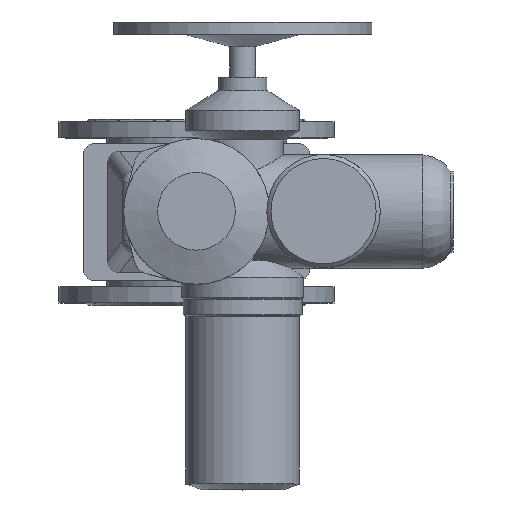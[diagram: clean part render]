
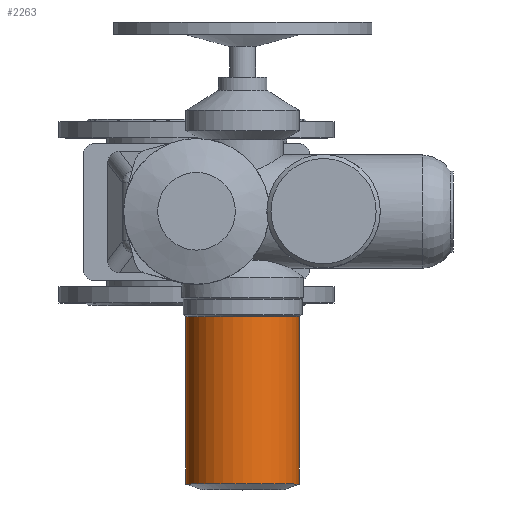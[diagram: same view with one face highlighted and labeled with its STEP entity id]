
A CAD part, top view. The second image highlights one B-rep face of the part: STEP entity #2263.
In plain terms, the highlighted cylindrical face has radius 70 mm (diameter 140 mm), a full revolution.
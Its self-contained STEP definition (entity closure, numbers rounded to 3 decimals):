
#2263=ADVANCED_FACE('',(#4683,#4685),#4687,.T.);
#4683=FACE_OUTER_BOUND('',#4684,.T.);
#4684=EDGE_LOOP('',(#5993));
#4685=FACE_OUTER_BOUND('',#4686,.T.);
#4686=EDGE_LOOP('',(#5994));
#4687=CYLINDRICAL_SURFACE('',#4688,70.);
#4688=AXIS2_PLACEMENT_3D('',#4689,#4690,#4691);
#4689=CARTESIAN_POINT('',(57.,-336.721,572.));
#4690=DIRECTION('',(0.,1.,0.));
#4691=DIRECTION('',(0.,0.,1.));
#5993=ORIENTED_EDGE('',*,*,#6640,.F.);
#5994=ORIENTED_EDGE('',*,*,#6641,.T.);
#6640=EDGE_CURVE('',#7722,#7722,#7723,.T.);
#6641=EDGE_CURVE('',#7724,#7724,#7725,.T.);
#7722=VERTEX_POINT('',#13251);
#7723=CIRCLE('',#13252,70.);
#7724=VERTEX_POINT('',#13256);
#7725=CIRCLE('',#13257,70.);
#13251=CARTESIAN_POINT('',(57.,-129.807,642.));
#13252=AXIS2_PLACEMENT_3D('',#13253,#13254,#13255);
#13253=CARTESIAN_POINT('',(57.,-129.807,572.));
#13254=DIRECTION('',(0.,1.,0.));
#13255=DIRECTION('',(0.,0.,1.));
#13256=CARTESIAN_POINT('',(57.,-336.721,642.));
#13257=AXIS2_PLACEMENT_3D('',#13258,#13259,#13260);
#13258=CARTESIAN_POINT('',(57.,-336.721,572.));
#13259=DIRECTION('',(0.,1.,0.));
#13260=DIRECTION('',(0.,0.,1.));
